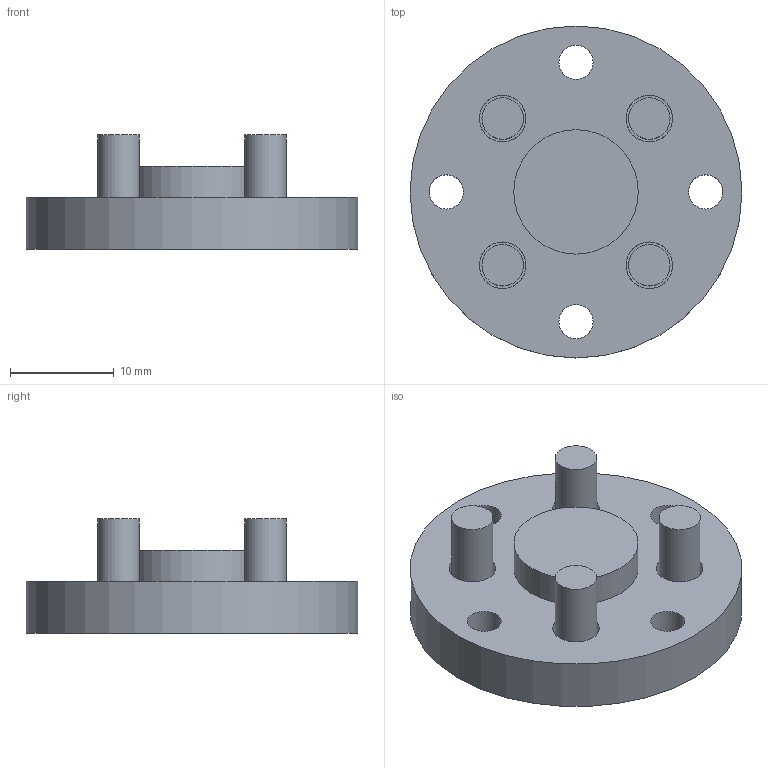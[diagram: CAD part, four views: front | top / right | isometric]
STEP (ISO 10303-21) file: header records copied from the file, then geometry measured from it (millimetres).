
FILE_DESCRIPTION(('STEP AP203'),'1');
FILE_NAME(').stp','2025-07-24T07:30:51',(' '),(' '),'Spatial InterOp 3D',' ',' ');
FILE_SCHEMA(('CONFIG_CONTROL_DESIGN'));
Length unit declared in the file: millimetre
Products named in the file (6): SGB-FB; FLANGE; BOLT
Assembly tree (5 placements, depth 2):
  SGB-FB
    FLANGE
    BOLT
    BOLT
    BOLT
    BOLT
Bounding box: 32 x 32 x 11 mm (x, y, z)
Volume: 3967.7 mm3; surface area: 3778 mm2
Topology: 5 solids, 5 shells, 71 faces, 145 edges, 98 vertices
Faces by surface type: plane 48, cylinder 23
Full cylindrical faces by diameter (mm): 3.3 x4, 4 x4, 4.5 x4, 7 x4, 7.2 x4, 12 x2, 32 x1
Entity records: 2058 total; most frequent: DIRECTION 318, CARTESIAN_POINT 289, ORIENTED_EDGE 236, EDGE_LOOP 124, AXIS2_PLACEMENT_3D 123, EDGE_CURVE 118, FACE_OUTER_BOUND 94, VERTEX_POINT 94
